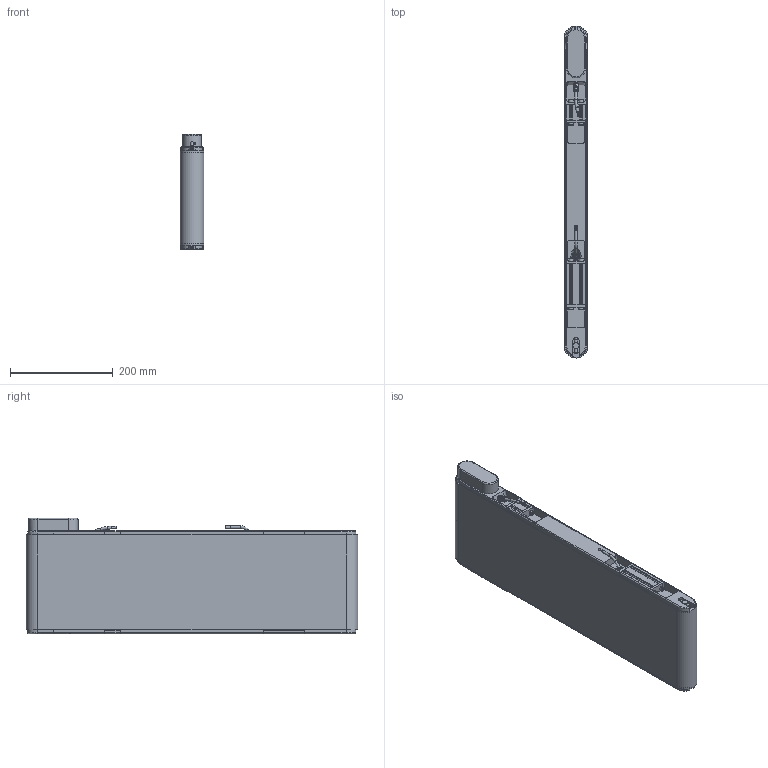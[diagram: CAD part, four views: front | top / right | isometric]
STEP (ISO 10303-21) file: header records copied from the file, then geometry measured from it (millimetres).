
FILE_DESCRIPTION(/* description */ (''),/* implementation_level */ '2;1');
FILE_NAME(/* name */ 'G:\DATEN\CAD\Förderband\Marketing\3D-Modelle (Standard)\FR-40-200-Q\FR-40-200-Q-DL-600-300-K.stp',/* time_stamp */ '2019-05-09T10:10:00+02:00',/* author */ ('melanie.ochs'),/* organization */ (''),/* preprocessor_version */ 'ST-DEVELOPER v17',/* originating_system */ 'Autodesk Inventor 2019',/* authorisation */ '');
FILE_SCHEMA (('CONFIG_CONTROL_DESIGN','INTEGRATED_CNC_SCHEMA'));
Length unit declared in the file: centimetre
Products named in the file (1): FR-40-200-Q-DL-1000-600-K
Bounding box: 46.4 x 646.4 x 224.5 mm (x, y, z)
Volume: 4586120 mm3; surface area: 1058336.9 mm2
Topology: 12 solids, 18 shells, 1388 faces, 3965 edges, 2734 vertices
Faces by surface type: plane 701, cylinder 494, cone 97, bspline 61, torus 35
Full cylindrical faces by diameter (mm): 1 x6, 1.5 x5, 3 x1, 3.242 x4, 4 x8, 4.3 x8, 4.917 x3, 5 x22, 5.5 x16, 6 x4, 6.5 x1, 6.773 x2, 6.917 x5, 8.5 x16, 8.773 x2, 10 x3, 11 x2, 12 x6, 20 x1, 25 x2, 28 x2, 28.01 x2, 30 x1, 44 x3
Entity records: 48378 total; most frequent: CARTESIAN_POINT 9959, ORIENTED_EDGE 7870, DIRECTION 7679, EDGE_CURVE 3935, AXIS2_PLACEMENT_3D 2765, VERTEX_POINT 2736, LINE 2149, VECTOR 2149
